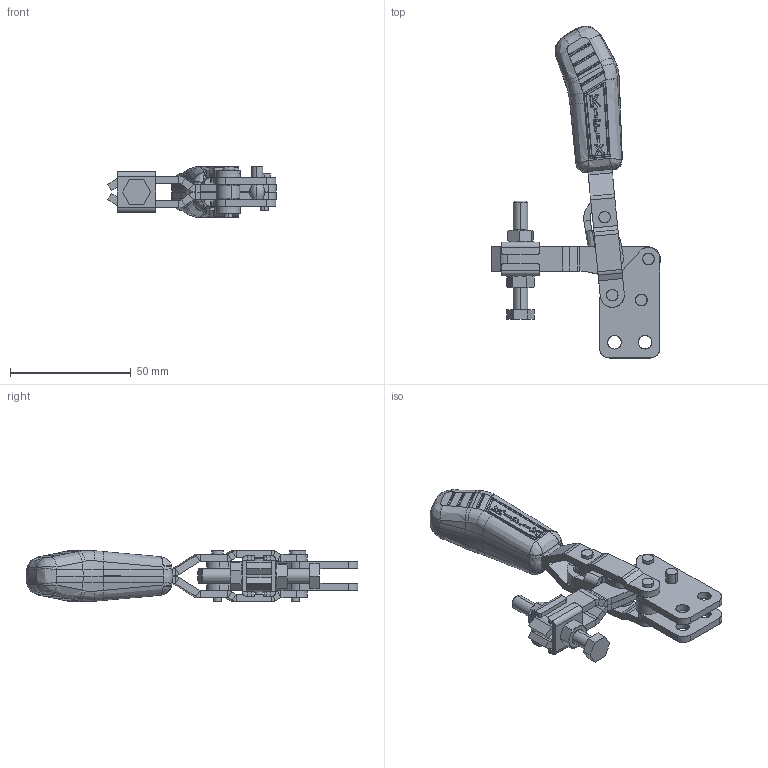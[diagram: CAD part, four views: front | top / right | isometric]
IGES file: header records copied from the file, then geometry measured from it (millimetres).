
Start section: SolidWorks IGES file using analytic representation for surfaces
Global section: file name: C:\Projetos\Grampos\KF-012\KF-012 RB\KF-012 RB.IGS; native system: SolidWorks 2013; preprocessor: SolidWorks 2013; author: Ricardo; date: 140728.103241; units: millimetre
Bounding box: 70 x 137.56 x 21.21 mm (x, y, z)
Surface area: 28057.9 mm2 (no closed solid volume)
Topology: 0 solids, 0 shells, 1095 faces, 10867 edges, 10813 vertices
Faces by surface type: bspline 650, revolution 445
